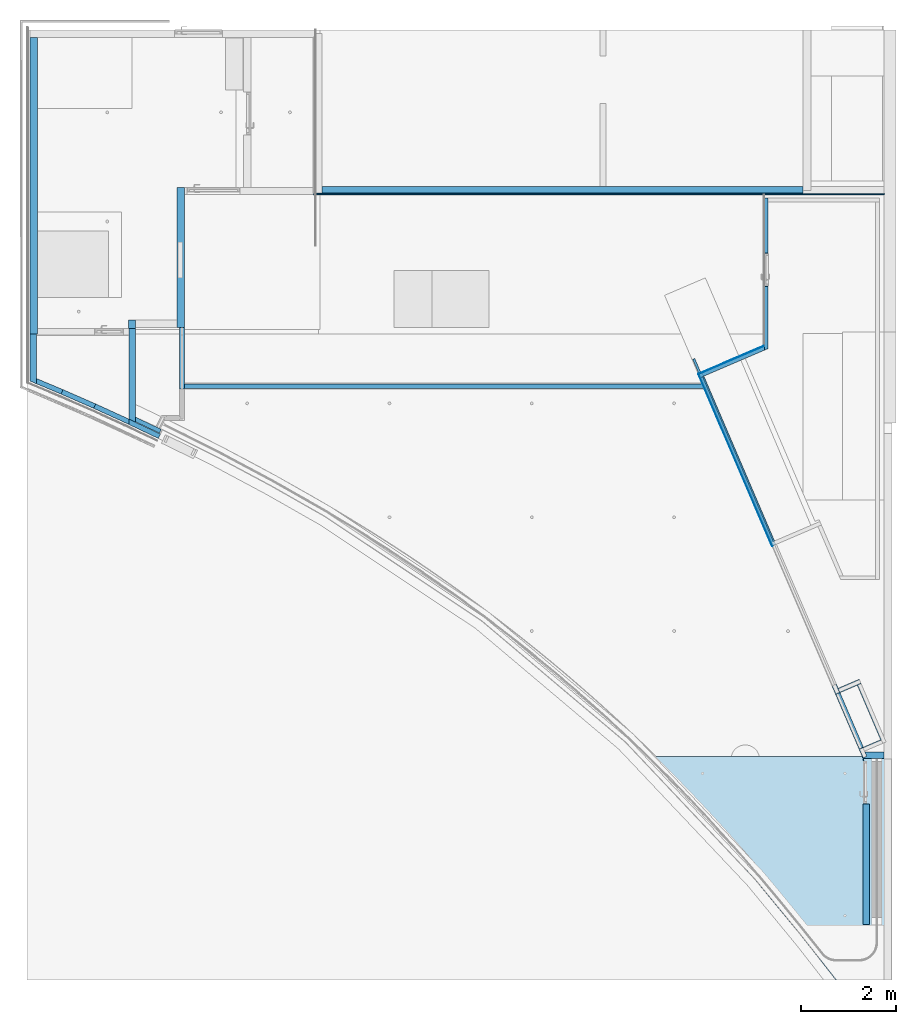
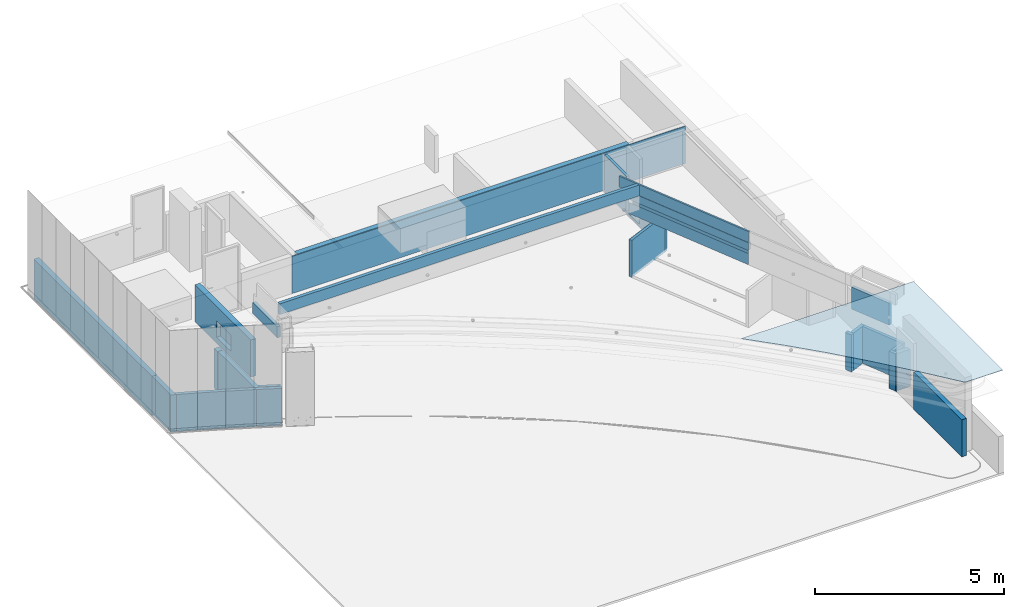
# One storey, part 4 of 16: 30 walls, 1 slab, 3 openings.
"""IFC2X3 building model written with IfcOpenShell, lengths in millimetres."""

from ifc_helpers import new_model, entity, si_unit, converted_unit, derived_unit, direction, frame, frame_2d, origin, origin_with_axes, place, context, subcontext, project, spatial, polyline, rectangle, outline, extrude, clip, halfspace, faceted_brep, material, layer, layer_set, layer_usage, type_object, element, save


model = new_model("IFC2X3")

# Units and contexts
model_context = context("Model", 3, precision=0.01, world=frame((0.0, 4.29681676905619e-09, 0.0)), true_north=direction((4.01073788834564e-13, 1.0)))
plan_context = context("Plan", 3, precision=0.01, world=frame((0.0, 4.29681676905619e-09, 0.0)), true_north=direction((4.01073788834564e-13, 1.0)))
body_context = subcontext(model_context, "Body", "Model", "MODEL_VIEW")
ifc_project = project(units=[converted_unit("PLANEANGLEUNIT", "DEGREE", entity("IfcPositiveLengthMeasure", 0.0174532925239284), si_unit("PLANEANGLEUNIT", "RADIAN"), dimensions=[0, 0, 0, 0, 0, 0, 0]), si_unit("AREAUNIT", "SQUARE_METRE"), si_unit("LENGTHUNIT", "METRE", prefix="MILLI"), si_unit("MASSUNIT", "GRAM", prefix="KILO"), si_unit("POWERUNIT", "WATT"), si_unit("PRESSUREUNIT", "PASCAL"), si_unit("FORCEUNIT", "NEWTON", prefix="KILO"), si_unit("ELECTRICCURRENTUNIT", "AMPERE"), si_unit("THERMODYNAMICTEMPERATUREUNIT", "DEGREE_CELSIUS"), si_unit("TIMEUNIT", "SECOND"), si_unit("VOLUMEUNIT", "CUBIC_METRE"), derived_unit("LINEARVELOCITYUNIT", [(si_unit("LENGTHUNIT", "METRE"), 1), (si_unit("TIMEUNIT", "SECOND"), -1)]), derived_unit("VOLUMETRICFLOWRATEUNIT", [(si_unit("VOLUMEUNIT", "CUBIC_METRE"), 1), (si_unit("TIMEUNIT", "SECOND"), -1)]), derived_unit("THERMALTRANSMITTANCEUNIT", [(si_unit("POWERUNIT", "WATT"), 1), (si_unit("THERMODYNAMICTEMPERATUREUNIT", "KELVIN"), -1), (si_unit("AREAUNIT", "SQUARE_METRE"), -1)])], contexts=[model_context, plan_context])

# Site, building, storey
site_placement = place(None, origin_with_axes())
site = spatial("IfcSite", under=ifc_project, at=site_placement, Name="ENGM", CompositionType="ELEMENT")
building_placement = place(site_placement, origin_with_axes())
building = spatial("IfcBuilding", under=site, at=building_placement, Name="TS", CompositionType="ELEMENT")
storey_placement = place(building_placement, frame((0.0, 0.0, 204000.0), z_axis=(0.0, 0.0, 1.0), x_axis=(1.0, 0.0, 0.0)))
storey = spatial("IfcBuildingStorey", under=building, at=storey_placement, Name="Nivå D", CompositionType="ELEMENT", Elevation=204000.0)

# Slab
ifc_material_1 = material(Name="T2_X-finer")
ifc_layer_1 = layer(ifc_material_1, 15.0)
ifc_layer_set_1 = layer_set([ifc_layer_1], Name="Floor:A254 - Kryssfiner - 15 mm")
slab_type = type_object("IfcSlabType", Name="Floor:A254 - Kryssfiner - 15 mm", PredefinedType="FLOOR", material=ifc_layer_set_1)
slab_placement = place(storey_placement, origin_with_axes())
element("IfcSlab", 1, at=slab_placement, inside=storey, type_object=slab_type, Name="Floor:A254 - Kryssfiner - 15 mm", ObjectType="Floor:A254 - Kryssfiner - 15 mm", PredefinedType="FLOOR", context=body_context, shape_type="Brep", body=[
    faceted_brep([(526784.993363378, 405554.999999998, 3320.0), (526784.993363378, 405554.999999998, 3304.99999999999), (532057.49999987, 405554.999999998, 3304.99999999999), (532057.49999987, 405554.999999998, 3320.0), (532057.500001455, 400845.676658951, 3304.99999999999), (532057.500001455, 400845.676658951, 3320.0), (530909.699474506, 400845.676658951, 3320.0), (530909.699474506, 400845.676658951, 3304.99999999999), (530179.742724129, 401775.695373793, 3304.99999999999), (530179.742724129, 401775.695373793, 3320.0), (529198.793939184, 402967.573780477, 3304.99999999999), (529198.793939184, 402967.573780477, 3320.0), (528423.379450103, 403856.971789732, 3304.99999999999), (528423.379450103, 403856.971789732, 3320.0), (527618.475358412, 404719.772955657, 3304.99999999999), (527618.475358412, 404719.772955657, 3320.0)], [[[0, 1, 2, 3]], [[4, 5, 3, 2]], [[6, 7, 8, 9]], [[9, 8, 10, 11]], [[11, 10, 12, 13]], [[13, 12, 14, 15]], [[15, 14, 1, 0]], [[5, 6, 9, 11, 13, 15, 0, 3]], [[7, 4, 2, 1, 14, 12, 10, 8]], [[7, 6, 5, 4]]], orient=[[False], [False], [False], [False], [False], [False], [False], [False], [False], [False]]),
])

# Walls
ifc_material_2 = material(Name="Plate - Gips")
ifc_layer_2 = layer(ifc_material_2, 12.5)
ifc_layer_3 = layer(ifc_material_2, 12.5)
ifc_material_3 = material(Name="_NSW Stålstender, uisolert")
ifc_layer_4 = layer(ifc_material_3, 100.0)
ifc_layer_5 = layer(ifc_material_2, 12.5)
ifc_layer_6 = layer(ifc_material_2, 12.5)
ifc_layer_set_2 = layer_set([ifc_layer_2, ifc_layer_3, ifc_layer_4, ifc_layer_5, ifc_layer_6], Name="Basic Wall:A241 - SVS-101 (100/100 gg-gg)")
ifc_layer_usage_1 = layer_usage(ifc_layer_set_2, "AXIS2", "NEGATIVE", 75.0)
wall_type_1 = type_object("IfcWallType", Name="Basic Wall:A241 - SVS-101 (100/100 gg-gg)", PredefinedType="STANDARD", material=ifc_layer_set_2)
wall_1_placement = place(storey_placement, frame((520075.000000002, 417500.000000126, 0.0), z_axis=(0.0, 0.0, 1.0), x_axis=(1.0, 0.0, 0.0)))
element("IfcWallStandardCase", 2, at=wall_1_placement, inside=storey, type_object=wall_type_1, material=ifc_layer_usage_1, Name="Basic Wall:A241 - SVS-101 (100/100 gg-gg)", ObjectType="Basic Wall:A241 - SVS-101 (100/100 gg-gg)", context=body_context, shape_type="Clipping", body=[
    clip(extrude(rectangle(XDim=10142.5124998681, YDim=150.000000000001, at=frame_2d((5071.25624993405, -3.46531692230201e-11), x_axis=(-1.0, 0.0))), origin(), (0.0, 0.0, 1.0), 1200.0), halfspace(origin(), True)),
])
ifc_layer_7 = layer(ifc_material_2, 12.5)
ifc_layer_8 = layer(ifc_material_3, 75.0)
ifc_layer_9 = layer(ifc_material_2, 12.5)
ifc_layer_set_3 = layer_set([ifc_layer_7, ifc_layer_8, ifc_layer_9], Name="Basic Wall:A241 - SVS-75 (75/75 g-g)")
ifc_layer_usage_2 = layer_usage(ifc_layer_set_3, "AXIS2", "POSITIVE", -50.0)
wall_type_2 = type_object("IfcWallType", Name="Basic Wall:A241 - SVS-75 (75/75 g-g)", PredefinedType="STANDARD", material=ifc_layer_set_3)
wall_2_placement = place(storey_placement, frame((530976.469180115, 406948.237998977, 0.0), z_axis=(0.0, 0.0, 1.0), x_axis=(0.91913533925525, 0.393941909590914, 0.0)))
element("IfcWallStandardCase", 3, at=wall_2_placement, inside=storey, type_object=wall_type_2, material=ifc_layer_usage_2, Name="Basic Wall:A241 - SVS-75 (75/75 g-g)", ObjectType="Basic Wall:A241 - SVS-75 (75/75 g-g)", context=body_context, shape_type="Clipping", body=[
    clip(extrude(rectangle(XDim=483.368553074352, YDim=100.0, at=frame_2d((241.684276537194, -4.34603464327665e-11), x_axis=(-1.0, 0.0))), origin(), (0.0, 0.0, 1.0), 1200.0), halfspace(origin(), True)),
])
ifc_layer_usage_3 = layer_usage(ifc_layer_set_3, "AXIS2", "POSITIVE", -50.0)
wall_3_placement = place(storey_placement, frame((530872.211619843, 407064.566845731, 0.0), z_axis=(0.0, 0.0, 1.0), x_axis=(0.393941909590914, -0.91913533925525, 0.0)))
element("IfcWallStandardCase", 4, at=wall_3_placement, inside=storey, type_object=wall_type_2, material=ifc_layer_usage_3, Name="Basic Wall:A241 - SVS-75 (75/75 g-g)", ObjectType="Basic Wall:A241 - SVS-75 (75/75 g-g)", context=body_context, shape_type="Clipping", body=[
    clip(extrude(rectangle(XDim=197.993376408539, YDim=100.000000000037, at=frame_2d((98.9966882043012, -3.66746633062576e-11), x_axis=(-1.0, 0.0))), origin(), (0.0, 0.0, 1.0), 1200.0), halfspace(origin(), True)),
])
ifc_layer_10 = layer(ifc_material_2, 12.5)
ifc_layer_11 = layer(ifc_material_3, 75.0)
ifc_layer_12 = layer(ifc_material_2, 12.5)
ifc_layer_set_4 = layer_set([ifc_layer_10, ifc_layer_11, ifc_layer_12], Name="Basic Wall:A241 - skjørt (SVS-75 S)")
ifc_layer_usage_4 = layer_usage(ifc_layer_set_4, "AXIS2", "POSITIVE", -50.0)
wall_type_3 = type_object("IfcWallType", Name="Basic Wall:A241 - skjørt (SVS-75 S)", PredefinedType="STANDARD", material=ifc_layer_set_4)
wall_4_placement = place(storey_placement, frame((531442.520560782, 405733.936391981, 2040.0), z_axis=(0.0, 0.0, 1.0), x_axis=(-0.393941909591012, 0.919135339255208, 0.0)))
element("IfcWallStandardCase", 5, at=wall_4_placement, inside=storey, type_object=wall_type_3, material=ifc_layer_usage_4, Name="Basic Wall:A241 - skjørt (SVS-75 S)", ObjectType="Basic Wall:A241 - skjørt (SVS-75 S)", context=body_context, shape_type="SweptSolid", body=[
    extrude(rectangle(XDim=1249.70469037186, YDim=100.0, at=frame_2d((624.852345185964, -1.77280412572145e-11), x_axis=(-1.0, 0.0))), origin(), (0.0, 0.0, 1.0), 710.000000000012),
])
ifc_layer_usage_5 = layer_usage(ifc_layer_set_4, "AXIS2", "NEGATIVE", 50.0)
wall_5_placement = place(storey_placement, frame((517127.500000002, 413300.158693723, 2040.0), z_axis=(0.0, 0.0, 1.0), x_axis=(0.0, 1.0, 0.0)))
element("IfcWallStandardCase", 6, at=wall_5_placement, inside=storey, type_object=wall_type_3, material=ifc_layer_usage_5, Name="Basic Wall:A241 - skjørt (SVS-75 S)", ObjectType="Basic Wall:A241 - skjørt (SVS-75 S)", context=body_context, shape_type="SweptSolid", body=[
    extrude(rectangle(XDim=1302.34130627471, YDim=99.9999999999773, at=frame_2d((651.170653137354, 3.46531692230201e-11), x_axis=(-1.0, 0.0))), origin(), (0.0, 0.0, 1.0), 360.000000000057),
])
ifc_layer_13 = layer(ifc_material_2, 12.5)
ifc_material_4 = material(Name="_NSW X-finer")
ifc_layer_14 = layer(ifc_material_4, 15.0)
ifc_material_5 = material(Name="_NSW Stålstender, isolert UTEN SKRAVUR")
ifc_layer_15 = layer(ifc_material_5, 100.0)
ifc_layer_16 = layer(ifc_material_4, 15.0)
ifc_layer_17 = layer(ifc_material_2, 12.5)
ifc_layer_set_5 = layer_set([ifc_layer_13, ifc_layer_14, ifc_layer_15, ifc_layer_16, ifc_layer_17], Name="Basic Wall:A241 - SXVXS-100")
ifc_layer_usage_6 = layer_usage(ifc_layer_set_5, "AXIS2", "NEGATIVE", 77.5)
wall_type_4 = type_object("IfcWallType", Name="Basic Wall:A241 - SXVXS-100", PredefinedType="STANDARD", material=ifc_layer_set_5)
wall_6_placement = place(storey_placement, frame((514000.000000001, 420715.191453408, -70.0), z_axis=(0.0, 0.0, 1.0), x_axis=(0.0, -1.0, 0.0)))
element("IfcWallStandardCase", 7, at=wall_6_placement, inside=storey, type_object=wall_type_4, material=ifc_layer_usage_6, Name="Basic Wall:A241 - SXVXS-100", ObjectType="Basic Wall:A241 - SXVXS-100", context=body_context, shape_type="Clipping", body=[
    clip(extrude(rectangle(XDim=6255.19145328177, YDim=155.000000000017, at=frame_2d((3127.59572664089, 0.0), x_axis=(-1.0, 0.0))), origin(), (0.0, 0.0, 1.0), 1269.99999999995), halfspace(frame((0.0, 0.0, -70.0)), True)),
])

# Wall, opening
ifc_layer_usage_7 = layer_usage(ifc_layer_set_5, "AXIS2", "NEGATIVE", 77.5)
wall_7_placement = place(storey_placement, frame((517100.000000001, 417552.500000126, 0.0), z_axis=(0.0, 0.0, 1.0), x_axis=(0.0, -1.0, 0.0)))
wall_7 = element("IfcWallStandardCase", 8, at=wall_7_placement, inside=storey, type_object=wall_type_4, material=ifc_layer_usage_7, Name="Basic Wall:A241 - SXVXS-100", ObjectType="Basic Wall:A241 - SXVXS-100", context=body_context, shape_type="Clipping", body=[
    clip(extrude(rectangle(XDim=2950.00000012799, YDim=155.000000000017, at=frame_2d((1475.000000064, 0.0), x_axis=(-1.0, 0.0))), origin(), (0.0, 0.0, 1.0), 1200.0), halfspace(origin(), True)),
])
opening_1_placement = place(wall_7_placement, origin_with_axes())
element("IfcOpeningElement", 9, at=opening_1_placement, cuts=wall_7, Name="Basic Wall:A241 - SXVXS-100", ObjectType="Opening", context=body_context, shape_type="SweptSolid", body=[
    extrude(rectangle(XDim=519.999999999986, YDim=769.999999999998, at=frame_2d((1.7308821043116e-11, 0.0), x_axis=(1.0, 0.0))), frame((1531.39761306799, -232.500000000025, 460.0), z_axis=(0.0, 1.0, 0.0), x_axis=(0.0, 0.0, -1.0)), (0.0, 0.0, 1.0), 275.000000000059),
])

# Walls
ifc_layer_usage_8 = layer_usage(ifc_layer_set_5, "AXIS2", "NEGATIVE", 77.5)
wall_8_placement = place(storey_placement, frame((516072.000000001, 414757.499999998, -70.0), z_axis=(0.0, 0.0, 1.0), x_axis=(0.0, -1.0, 0.0)))
element("IfcWallStandardCase", 10, at=wall_8_placement, inside=storey, type_object=wall_type_4, material=ifc_layer_usage_8, Name="Basic Wall:A241 - SXVXS-100", ObjectType="Basic Wall:A241 - SXVXS-100", context=body_context, shape_type="Clipping", body=[
    clip(extrude(rectangle(XDim=180.000000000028, YDim=155.000000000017, at=frame_2d((90.0000000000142, 0.0), x_axis=(-1.0, 0.0))), origin(), (0.0, 0.0, 1.0), 1269.99999999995), halfspace(frame((0.0, 0.0, -70.0)), True)),
])
ifc_layer_18 = layer(ifc_material_3, 75.0)
ifc_layer_19 = layer(ifc_material_2, 12.5)
ifc_layer_set_6 = layer_set([ifc_layer_18, ifc_layer_19], Name="Basic Wall:A241 - skjørt (SV-75 S)")
ifc_layer_usage_9 = layer_usage(ifc_layer_set_6, "AXIS2", "POSITIVE", -43.75)
wall_type_5 = type_object("IfcWallType", Name="Basic Wall:A241 - skjørt (SV-75 S)", PredefinedType="STANDARD", material=ifc_layer_set_6)
wall_9_placement = place(storey_placement, frame((529604.19554669, 410007.204720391, 2500.0), z_axis=(0.0, 0.0, 1.0), x_axis=(-0.393941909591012, 0.919135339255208, 0.0)))
element("IfcWallStandardCase", 11, at=wall_9_placement, inside=storey, type_object=wall_type_5, material=ifc_layer_usage_9, Name="Basic Wall:A241 - skjørt (SV-75 S)", ObjectType="Basic Wall:A241 - skjørt (SV-75 S)", context=body_context, shape_type="SweptSolid", body=[
    extrude(rectangle(XDim=3939.94677260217, YDim=87.5000000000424, at=frame_2d((1969.97338630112, -1.1201706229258e-11), x_axis=(-1.0, 0.0))), origin(), (0.0, 0.0, 1.0), 249.999999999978),
])
ifc_layer_20 = layer(ifc_material_2, 12.5)
ifc_layer_21 = layer(ifc_material_4, 15.0)
ifc_layer_22 = layer(ifc_material_3, 100.0)
ifc_layer_23 = layer(ifc_material_2, 12.5)
ifc_layer_set_7 = layer_set([ifc_layer_20, ifc_layer_21, ifc_layer_22, ifc_layer_23], Name="Basic Wall:A241 - SXVS-100")
ifc_layer_usage_10 = layer_usage(ifc_layer_set_7, "AXIS2", "NEGATIVE", 70.0)
wall_type_6 = type_object("IfcWallType", Name="Basic Wall:A241 - SXVS-100", PredefinedType="STANDARD", material=ifc_layer_set_7)
wall_10_placement = place(storey_placement, frame((516079.500000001, 414577.499999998, 0.0), z_axis=(0.0, 0.0, 1.0), x_axis=(0.0, -1.0, 0.0)))
element("IfcWallStandardCase", 12, at=wall_10_placement, inside=storey, type_object=wall_type_6, material=ifc_layer_usage_10, Name="Basic Wall:A241 - SXVS-100", ObjectType="Basic Wall:A241 - SXVS-100", context=body_context, shape_type="SweptSolid", body=[
    extrude(outline(polyline([(183.083428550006, -602.601996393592), (338.093237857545, -602.601996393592), (334.284625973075, -594.589110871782), (291.488922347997, -504.55182579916), (-510.25330195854, 1182.22247839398), (-636.696912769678, 1122.12245106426), (183.083428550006, -602.601996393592)])), frame((1286.79083102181, 23.3333333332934, 0.0), z_axis=(0.0, 0.0, 1.0), x_axis=(0.429285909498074, 0.903168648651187, 0.0)), (0.0, 0.0, 1.0), 1200.0),
])

# Wall, opening
wall_11_placement = place(storey_placement, frame((531547.500000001, 402010.249999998, 0.0), z_axis=(0.0, 0.0, 1.0), x_axis=(0.0, 1.0, 0.0)))
wall_11 = element("IfcWall", 13, at=wall_11_placement, inside=storey, type_object=wall_type_6, Name="Basic Wall:A241 - SXVS-100", ObjectType="Basic Wall:A241 - SXVS-100", context=body_context, shape_type="SweptSolid", body=[
    extrude(rectangle(XDim=139.999999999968, YDim=2549.75000000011, at=frame_2d((3.46531692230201e-11, -3.46744855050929e-11), x_axis=(1.0, 0.0))), frame((1274.87500000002, 0.0, 0.0), z_axis=(0.0, 0.0, 1.0), x_axis=(0.0, 1.0, 0.0)), (0.0, 0.0, 1.0), 1200.0),
    extrude(outline(polyline([(-7.9149633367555, -18.4669930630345), (15.8299266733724, -18.4669930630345), (-7.9149633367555, 36.9339861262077), (-7.9149633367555, -18.4669930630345)])), frame((3478.21699306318, 62.0850366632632, 0.0), z_axis=(0.0, 0.0, 1.0), x_axis=(0.0, -1.0, 0.0)), (0.0, 0.0, 1.0), 1200.0),
])
opening_2_placement = place(wall_11_placement, frame((2549.75000000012, -70.0, 0.0), z_axis=(0.0, 0.0, 1.0), x_axis=(1.0, 0.0, 0.0)))
element("IfcOpeningElement", 14, at=opening_2_placement, cuts=wall_11, Name="A20 - Slagdør - Enkel:A243 - DI_SSO - 0890 x 2090 mm:1", ObjectType="Opening", context=body_context, shape_type="SweptSolid", body=[
    extrude(rectangle(XDim=2109.99999999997, YDim=910.0, at=frame_2d((1054.99999999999, 455.0), x_axis=(1.0, 0.0))), frame((0.0, 0.0, 0.0), z_axis=(0.0, 1.0, 0.0), x_axis=(0.0, 0.0, 1.0)), (0.0, 0.0, 1.0), 140.0),
])

# Walls
ifc_layer_usage_11 = layer_usage(ifc_layer_set_7, "AXIS2", "NEGATIVE", 70.0)
wall_12_placement = place(storey_placement, frame((531477.500000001, 405581.249999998, 0.0), z_axis=(0.0, 0.0, 1.0), x_axis=(1.0, 0.0, 0.0)))
element("IfcWallStandardCase", 15, at=wall_12_placement, inside=storey, type_object=wall_type_6, material=ifc_layer_usage_11, Name="Basic Wall:A241 - SXVS-100", ObjectType="Basic Wall:A241 - SXVS-100", context=body_context, shape_type="Clipping", body=[
    clip(extrude(rectangle(XDim=447.500000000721, YDim=139.999999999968, at=frame_2d((223.750000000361, 3.46531692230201e-11), x_axis=(-1.0, 0.0))), origin(), (0.0, 0.0, 1.0), 1200.0), halfspace(origin(), True)),
])
ifc_layer_usage_12 = layer_usage(ifc_layer_set_7, "AXIS2", "POSITIVE", -70.0)
wall_13_placement = place(storey_placement, frame((513992.500000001, 414460.000000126, 0.0), z_axis=(0.0, 0.0, 1.0), x_axis=(0.0, -1.0, 0.0)))
element("IfcWallStandardCase", 16, at=wall_13_placement, inside=storey, type_object=wall_type_6, material=ifc_layer_usage_12, Name="Basic Wall:A241 - SXVS-100", ObjectType="Basic Wall:A241 - SXVS-100", context=body_context, shape_type="SweptSolid", body=[
    extrude(outline(polyline([(103.27851817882, -488.170990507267), (255.062743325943, -488.170990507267), (212.131125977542, -385.67099050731), (-141.319001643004, 458.19747564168), (-150.011353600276, 478.950620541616), (-279.142032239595, 424.864875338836), (103.27851817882, -488.170990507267)])), frame((499.719246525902, 23.333333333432, 0.0), z_axis=(0.0, 0.0, 1.0), x_axis=(0.386326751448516, 0.922361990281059, 0.0)), (0.0, 0.0, 1.0), 1200.0),
])
ifc_layer_24 = layer(ifc_material_2, 12.5)
ifc_layer_25 = layer(ifc_material_4, 15.0)
ifc_layer_26 = layer(ifc_material_3, 75.0)
ifc_layer_set_8 = layer_set([ifc_layer_24, ifc_layer_25, ifc_layer_26], Name="Basic Wall:A241 - SXV-76")
ifc_layer_usage_13 = layer_usage(ifc_layer_set_8, "AXIS2", "POSITIVE", -51.25)
wall_type_7 = type_object("IfcWallType", Name="Basic Wall:A241 - SXV-76", PredefinedType="STANDARD", material=ifc_layer_set_8)
wall_14_placement = place(storey_placement, frame((514597.706388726, 413242.875605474, 0.0), z_axis=(0.0, 0.0, 1.0), x_axis=(0.915909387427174, -0.401385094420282, 0.0)))
element("IfcWallStandardCase", 17, at=wall_14_placement, inside=storey, type_object=wall_type_7, material=ifc_layer_usage_13, Name="Basic Wall:A241 - SXV-76", ObjectType="Basic Wall:A241 - SXV-76", context=body_context, shape_type="Clipping", body=[
    clip(extrude(outline(polyline([(751.755917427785, -51.2499999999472), (752.481593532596, 51.2500000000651), (0.0, 51.2500000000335), (0.839636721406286, -51.2499999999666), (751.755917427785, -51.2499999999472)])), origin(), (0.0, 0.0, 1.0), 1200.0), halfspace(origin(), True)),
])
ifc_layer_usage_14 = layer_usage(ifc_layer_set_8, "AXIS2", "POSITIVE", -51.25)
wall_15_placement = place(storey_placement, frame((515987.49909714, 412621.575408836, 0.0), z_axis=(0.0, 0.0, 1.0), x_axis=(0.903168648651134, -0.429285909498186, 0.0)))
element("IfcWallStandardCase", 18, at=wall_15_placement, inside=storey, type_object=wall_type_7, material=ifc_layer_usage_14, Name="Basic Wall:A241 - SXV-76", ObjectType="Basic Wall:A241 - SXV-76", context=body_context, shape_type="Clipping", body=[
    clip(extrude(outline(polyline([(732.354701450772, -51.2499999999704), (732.354701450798, 51.2500000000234), (155.009809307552, 51.2500000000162), (0.0, 51.2499999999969), (48.1986020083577, -50.154367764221), (48.7193679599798, -51.2499999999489), (732.354701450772, -51.2499999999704)])), origin(), (0.0, 0.0, 1.0), 1200.0), halfspace(origin(), True)),
])
ifc_layer_usage_15 = layer_usage(ifc_layer_set_8, "AXIS2", "NEGATIVE", 51.25)
wall_16_placement = place(storey_placement, frame((516030.733544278, 412602.230965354, 0.0), z_axis=(0.0, 0.0, 1.0), x_axis=(-0.910134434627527, 0.414313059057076, 0.0)))
element("IfcWallStandardCase", 19, at=wall_16_placement, inside=storey, type_object=wall_type_7, material=ifc_layer_usage_15, Name="Basic Wall:A241 - SXV-76", ObjectType="Basic Wall:A241 - SXV-76", context=body_context, shape_type="Clipping", body=[
    clip(extrude(outline(polyline([(817.994276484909, -51.2499999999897), (817.268600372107, 51.2500000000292), (0.0, 51.2499999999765), (46.6602371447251, -51.2499999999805), (817.994276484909, -51.2499999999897)])), origin(), (0.0, 0.0, 1.0), 1200.0), halfspace(origin(), True)),
])
ifc_layer_usage_16 = layer_usage(ifc_layer_set_8, "AXIS2", "NEGATIVE", 51.25)
wall_17_placement = place(storey_placement, frame((514598.478128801, 413242.544909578, 0.0), z_axis=(0.0, 0.0, 1.0), x_axis=(-0.922361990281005, 0.386326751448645, 0.0)))
element("IfcWallStandardCase", 20, at=wall_17_placement, inside=storey, type_object=wall_type_7, material=ifc_layer_usage_16, Name="Basic Wall:A241 - SXV-76", ObjectType="Basic Wall:A241 - SXV-76", context=body_context, shape_type="Clipping", body=[
    clip(extrude(outline(polyline([(602.558844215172, -51.2499999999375), (559.627226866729, 51.2500000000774), (0.839636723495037, 51.2500000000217), (0.0, -51.2499999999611), (602.558844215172, -51.2499999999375)])), origin(), (0.0, 0.0, 1.0), 1200.0), halfspace(origin(), True)),
])
ifc_layer_27 = layer(ifc_material_4, 15.0)
ifc_layer_28 = layer(ifc_material_3, 75.0)
ifc_layer_set_9 = layer_set([ifc_layer_27, ifc_layer_28], Name="Basic Wall:A241 - XV-75")
ifc_layer_usage_17 = layer_usage(ifc_layer_set_9, "AXIS2", "NEGATIVE", 45.0)
wall_type_8 = type_object("IfcWallType", Name="Basic Wall:A241 - XV-75", PredefinedType="STANDARD", material=ifc_layer_set_9)
wall_18_placement = place(storey_placement, frame((516130.146764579, 412669.255932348, 0.0), z_axis=(0.0, 0.0, 1.0), x_axis=(0.902794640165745, -0.430071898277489, 0.0)))
element("IfcWallStandardCase", 21, at=wall_18_placement, inside=storey, type_object=wall_type_8, material=ifc_layer_usage_17, Name="Basic Wall:A241 - XV-75", ObjectType="Basic Wall:A241 - XV-75", context=body_context, shape_type="Clipping", body=[
    clip(extrude(outline(polyline([(599.31033185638, -45.0), (599.310331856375, 45.0), (0.0, 45.0), (42.8740591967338, -45.0), (599.31033185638, -45.0)])), origin(), (0.0, 0.0, 1.0), 1200.0), halfspace(origin(), True)),
])

# Wall, opening
ifc_material_6 = material(Name="_NSW Isolasjon trykkfast")
ifc_layer_29 = layer(ifc_material_6, 80.0)
ifc_layer_set_10 = layer_set([ifc_layer_29], Name="Basic Wall:A231 - ISO-80")
ifc_layer_usage_18 = layer_usage(ifc_layer_set_10, "AXIS2", "POSITIVE", -40.0)
wall_type_9 = type_object("IfcWallType", Name="Basic Wall:A231 - ISO-80", PredefinedType="STANDARD", material=ifc_layer_set_10)
wall_19_placement = place(storey_placement, frame((529440.000000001, 417324.994893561, 0.0), z_axis=(0.0, 0.0, 1.0), x_axis=(0.0, -1.0, 0.0)))
wall_19 = element("IfcWallStandardCase", 22, at=wall_19_placement, inside=storey, type_object=wall_type_9, material=ifc_layer_usage_18, Name="Basic Wall:A231 - ISO-80", ObjectType="Basic Wall:A231 - ISO-80", context=body_context, shape_type="Clipping", body=[
    clip(extrude(outline(polyline([(3205.76724510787, -40.0), (3171.47920131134, 40.0), (80.0, 40.0), (0.0, 40.0), (0.0, -40.0), (3205.76724510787, -40.0)])), origin(), (0.0, 0.0, 1.0), 1200.0), halfspace(origin(), True)),
])
opening_3_placement = place(wall_19_placement, frame((1865.0, 40.0, 80.0), z_axis=(0.0, 0.0, 1.0), x_axis=(1.0, 0.0, 0.0)))
element("IfcOpeningElement", 23, at=opening_3_placement, cuts=wall_19, Name="A20 - Slagdør - Enkel5:A243 - DI_LTO - 0690 x 2090 mm:1", ObjectType="Opening", context=body_context, shape_type="SweptSolid", body=[
    extrude(rectangle(XDim=2109.99999999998, YDim=709.999999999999, at=frame_2d((1054.99999999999, 355.0), x_axis=(1.0, 0.0))), frame((0.0, 0.0, 0.0), z_axis=(0.0, -1.0, 0.0), x_axis=(0.0, 0.0, 1.0)), (0.0, 0.0, 1.0), 80.0),
])

# Walls
ifc_layer_usage_19 = layer_usage(ifc_layer_set_10, "AXIS2", "POSITIVE", -40.0)
wall_20_placement = place(storey_placement, frame((529415.757676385, 414169.500559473, 0.0), z_axis=(0.0, 0.0, 1.0), x_axis=(-0.919135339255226, -0.393941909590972, 0.0)))
element("IfcWallStandardCase", 24, at=wall_20_placement, inside=storey, type_object=wall_type_9, material=ifc_layer_usage_19, Name="Basic Wall:A231 - ISO-80", ObjectType="Basic Wall:A231 - ISO-80", context=body_context, shape_type="Clipping", body=[
    clip(extrude(outline(polyline([(1497.75286527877, -40.0), (1497.75286527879, 40.0), (34.2880437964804, 40.0), (0.0, -40.0), (1497.75286527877, -40.0)])), origin(), (0.0, 0.0, 1.0), 1200.0), halfspace(origin(), True)),
])
ifc_layer_usage_20 = layer_usage(ifc_layer_set_10, "AXIS2", "NEGATIVE", 40.0)
wall_21_placement = place(storey_placement, frame((529580.722628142, 410084.182539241, 2040.0), z_axis=(0.0, 0.0, 1.0), x_axis=(-0.393941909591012, 0.919135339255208, 0.0)))
element("IfcWallStandardCase", 25, at=wall_21_placement, inside=storey, type_object=wall_type_9, material=ifc_layer_usage_20, Name="Basic Wall:A231 - ISO-80", ObjectType="Basic Wall:A231 - ISO-80", context=body_context, shape_type="SweptSolid", body=[
    extrude(rectangle(XDim=3759.94677260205, YDim=79.9999999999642, at=frame_2d((1879.97338630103, -1.31379351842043e-11), x_axis=(-1.0, 0.0))), origin(), (0.0, 0.0, 1.0), 459.999999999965),
])
ifc_layer_30 = layer(ifc_material_2, 12.5)
ifc_layer_31 = layer(ifc_material_3, 75.0)
ifc_layer_set_11 = layer_set([ifc_layer_30, ifc_layer_31], Name="Basic Wall:A241 - SV-75")
ifc_layer_usage_21 = layer_usage(ifc_layer_set_11, "AXIS2", "POSITIVE", -43.75)
wall_type_10 = type_object("IfcWallType", Name="Basic Wall:A241 - SV-75", PredefinedType="STANDARD", material=ifc_layer_set_11)
wall_22_placement = place(storey_placement, frame((531400.235223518, 407075.465404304, 0.0), z_axis=(0.0, 0.0, 1.0), x_axis=(0.393941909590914, -0.91913533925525, 0.0)))
element("IfcWallStandardCase", 26, at=wall_22_placement, inside=storey, type_object=wall_type_10, material=ifc_layer_usage_21, Name="Basic Wall:A241 - SV-75", ObjectType="Basic Wall:A241 - SV-75", context=body_context, shape_type="Clipping", body=[
    clip(extrude(rectangle(XDim=1337.20469037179, YDim=87.4999999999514, at=frame_2d((668.602345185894, 3.10080849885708e-11), x_axis=(-1.0, 0.0))), origin(), (0.0, 0.0, 1.0), 1200.0), halfspace(origin(), True)),
])
ifc_layer_usage_22 = layer_usage(ifc_layer_set_11, "AXIS2", "NEGATIVE", 43.75)
wall_23_placement = place(storey_placement, frame((531494.223094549, 405708.497042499, 0.0), z_axis=(0.0, 0.0, 1.0), x_axis=(0.91913533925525, 0.393941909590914, 0.0)))
element("IfcWallStandardCase", 27, at=wall_23_placement, inside=storey, type_object=wall_type_10, material=ifc_layer_usage_22, Name="Basic Wall:A241 - SV-75", ObjectType="Basic Wall:A241 - SV-75", context=body_context, shape_type="Clipping", body=[
    clip(extrude(rectangle(XDim=408.368553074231, YDim=87.5000000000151, at=frame_2d((204.184276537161, 4.39115410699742e-11), x_axis=(-1.0, 0.0))), origin(), (0.0, 0.0, 1.0), 1200.0), halfspace(origin(), True)),
])
ifc_layer_usage_23 = layer_usage(ifc_layer_set_11, "AXIS2", "POSITIVE", -43.75)
wall_24_placement = place(storey_placement, frame((531436.775964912, 405731.474255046, 0.0), z_axis=(0.0, 0.0, 1.0), x_axis=(0.393941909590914, -0.91913533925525, 0.0)))
element("IfcWallStandardCase", 28, at=wall_24_placement, inside=storey, type_object=wall_type_10, material=ifc_layer_usage_23, Name="Basic Wall:A241 - SV-75", ObjectType="Basic Wall:A241 - SV-75", context=body_context, shape_type="Clipping", body=[
    clip(extrude(rectangle(XDim=205.452134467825, YDim=87.5000000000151, at=frame_2d((102.726067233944, -1.37063693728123e-11), x_axis=(-1.0, 0.0))), origin(), (0.0, 0.0, 1.0), 1200.0), halfspace(origin(), True)),
])
ifc_layer_32 = layer(ifc_material_4, 15.0)
ifc_layer_33 = layer(ifc_material_2, 12.5)
ifc_layer_set_12 = layer_set([ifc_layer_32, ifc_layer_33], Name="Basic Wall:A241 - SX")
ifc_layer_usage_24 = layer_usage(ifc_layer_set_12, "AXIS2", "NEGATIVE", 13.75)
wall_type_11 = type_object("IfcWallType", Name="Basic Wall:A241 - SX", PredefinedType="STANDARD", material=ifc_layer_set_12)
wall_25_placement = place(storey_placement, frame((519897.500000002, 417411.250000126, 0.0), z_axis=(0.0, 0.0, 1.0), x_axis=(1.0, 0.0, 0.0)))
element("IfcWallStandardCase", 29, at=wall_25_placement, inside=storey, type_object=wall_type_11, material=ifc_layer_usage_24, Name="Basic Wall:A241 - SX", ObjectType="Basic Wall:A241 - SX", context=body_context, shape_type="Clipping", body=[
    clip(extrude(rectangle(XDim=12027.5000000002, YDim=27.4999999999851, at=frame_2d((6013.75000000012, 0.0), x_axis=(-1.0, 0.0))), origin(), (0.0, 0.0, 1.0), 1200.0), halfspace(origin(), True)),
])
ifc_layer_34 = layer(ifc_material_3, 100.0)
ifc_layer_set_13 = layer_set([ifc_layer_34], Name="Basic Wall:A241 - skjørt (V-100 S)")
ifc_layer_usage_25 = layer_usage(ifc_layer_set_13, "AXIS2", "POSITIVE", -50.0)
wall_type_12 = type_object("IfcWallType", Name="Basic Wall:A241 - skjørt (V-100 S)", PredefinedType="STANDARD", material=ifc_layer_set_13)
wall_26_placement = place(storey_placement, frame((517165.000000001, 413362.500000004, 2750.0), z_axis=(0.0, 0.0, 1.0), x_axis=(1.0, 0.0, 0.0)))
element("IfcWallStandardCase", 30, at=wall_26_placement, inside=storey, type_object=wall_type_12, material=ifc_layer_usage_25, Name="Basic Wall:A241 - skjørt (V-100 S)", ObjectType="Basic Wall:A241 - skjørt (V-100 S)", context=body_context, shape_type="SweptSolid", body=[
    extrude(outline(polyline([(10988.5448348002, -50.0), (10945.6847800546, 50.0), (0.0, 50.0), (0.0, -50.0), (10988.5448348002, -50.0)])), origin(), (0.0, 0.0, 1.0), 350.000000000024),
])
ifc_material_7 = material(Name="T2_Gips Standard")
ifc_layer_35 = layer(ifc_material_7, 12.5)
ifc_layer_set_14 = layer_set([ifc_layer_35], Name="Basic Wall:A241 - S (g-0)")
ifc_layer_usage_26 = layer_usage(ifc_layer_set_14, "AXIS2", "NEGATIVE", 6.25000000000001)
wall_type_13 = type_object("IfcWallType", Name="Basic Wall:A241 - S (g-0)", PredefinedType="STANDARD", material=ifc_layer_set_14)
wall_27_placement = place(storey_placement, frame((529569.727971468, 409992.431898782, 2040.0), z_axis=(0.0, 0.0, 1.0), x_axis=(-0.393941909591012, 0.919135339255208, 0.0)))
element("IfcWallStandardCase", 31, at=wall_27_placement, inside=storey, type_object=wall_type_13, material=ifc_layer_usage_26, Name="Basic Wall:A241 - S (g-0)", ObjectType="Basic Wall:A241 - S (g-0)", context=body_context, shape_type="SweptSolid", body=[
    extrude(rectangle(XDim=3939.94677260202, YDim=12.5000000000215, at=frame_2d((1969.97338630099, -3.39710481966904e-11), x_axis=(-1.0, 0.0))), origin(), (0.0, 0.0, 1.0), 360.000000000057),
])
ifc_layer_usage_27 = layer_usage(ifc_layer_set_14, "AXIS2", "NEGATIVE", 6.25000000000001)
wall_28_placement = place(storey_placement, frame((528009.411083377, 413617.0586712, 0.0), z_axis=(0.0, 0.0, 1.0), x_axis=(0.919135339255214, 0.393941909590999, 0.0)))
element("IfcWallStandardCase", 32, at=wall_28_placement, inside=storey, type_object=wall_type_13, material=ifc_layer_usage_27, Name="Basic Wall:A241 - S (g-0)", ObjectType="Basic Wall:A241 - S (g-0)", context=body_context, shape_type="Clipping", body=[
    clip(extrude(outline(polyline([(1496.65312706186, -6.25000000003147), (1502.01063390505, 6.24999999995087), (0.0, 6.24999999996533), (0.0, -6.25000000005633), (1496.65312706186, -6.25000000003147)])), origin(), (0.0, 0.0, 1.0), 1200.0), halfspace(origin(), True)),
])
ifc_layer_usage_28 = layer_usage(ifc_layer_set_14, "AXIS2", "NEGATIVE", 6.25000000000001)
wall_29_placement = place(storey_placement, frame((529569.727971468, 409992.431898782, 2400.0), z_axis=(0.0, 0.0, 1.0), x_axis=(-0.393941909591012, 0.919135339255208, 0.0)))
element("IfcWallStandardCase", 33, at=wall_29_placement, inside=storey, type_object=wall_type_13, material=ifc_layer_usage_28, Name="Basic Wall:A241 - S (g-0)", ObjectType="Basic Wall:A241 - S (g-0)", context=body_context, shape_type="SweptSolid", body=[
    extrude(rectangle(XDim=3601.2435783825, YDim=12.5000000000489, at=frame_2d((1800.62178919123, -3.78967968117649e-11), x_axis=(-1.0, 0.0))), origin(), (0.0, 0.0, 1.0), 99.9999999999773),
])
ifc_layer_36 = layer(ifc_material_3, 50.0)
ifc_layer_set_15 = layer_set([ifc_layer_36], Name="Basic Wall:A241 - skjørt (V-75 S)")
ifc_layer_usage_29 = layer_usage(ifc_layer_set_15, "AXIS2", "NEGATIVE", 25.0)
wall_type_14 = type_object("IfcWallType", Name="Basic Wall:A241 - skjørt (V-75 S)", PredefinedType="STANDARD", material=ifc_layer_set_15)
wall_30_placement = place(storey_placement, frame((529598.45095082, 410004.742583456, 2750.0), z_axis=(0.0, 0.0, 1.0), x_axis=(-0.393941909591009, 0.919135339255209, 0.0)))
element("IfcWallStandardCase", 34, at=wall_30_placement, inside=storey, type_object=wall_type_14, material=ifc_layer_usage_29, Name="Basic Wall:A241 - skjørt (V-75 S)", ObjectType="Basic Wall:A241 - skjørt (V-75 S)", context=body_context, shape_type="SweptSolid", body=[
    extrude(rectangle(XDim=4280.79286551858, YDim=49.9999999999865, at=frame_2d((2140.39643275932, -1.05977449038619e-11), x_axis=(-1.0, 0.0))), origin(), (0.0, 0.0, 1.0), 350.000000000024),
])

save(model, "model.ifc")
